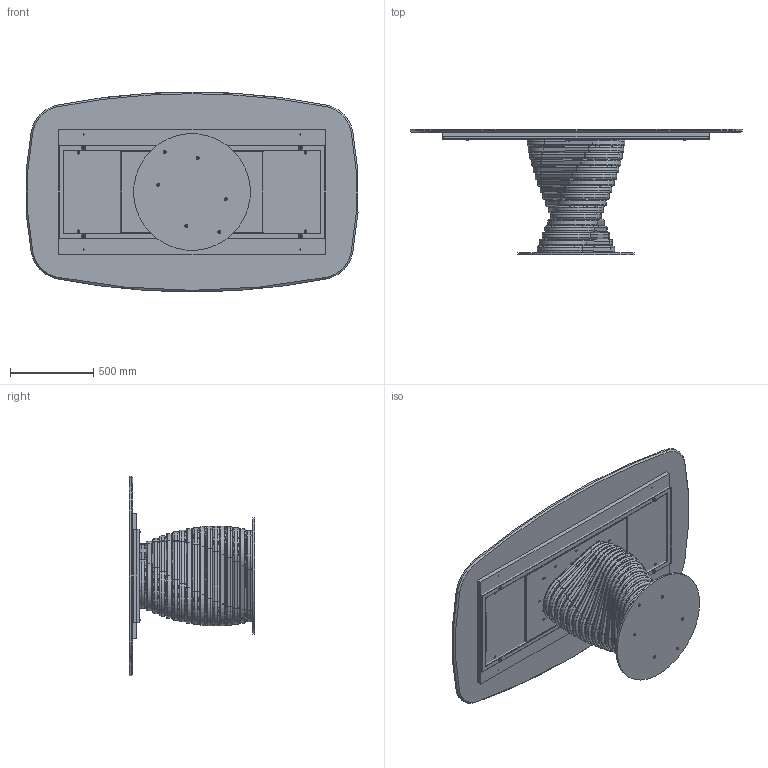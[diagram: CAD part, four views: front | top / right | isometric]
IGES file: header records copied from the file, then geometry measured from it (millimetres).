
Start section: SolidWorks IGES file using analytic representation for surfaces
Global section: file name: Y:\eforma\TECNICO\SOLIDWORKS\E-FORMA\1-TAVOLI\ROTOLO\02 parts\RO41M.IGS; native system: SolidWorks 2022; preprocessor: SolidWorks 2022; author: eforma.tech; date: 240807.153457; units: millimetre
Bounding box: 1992.14 x 752 x 1200 mm (x, y, z)
Volume: 86613804.8 mm3; surface area: 14825544.2 mm2
Topology: 95 solids, 95 shells, 1704 faces, 4052 edges, 2493 vertices
Faces by surface type: revolution 1044, plane 660
